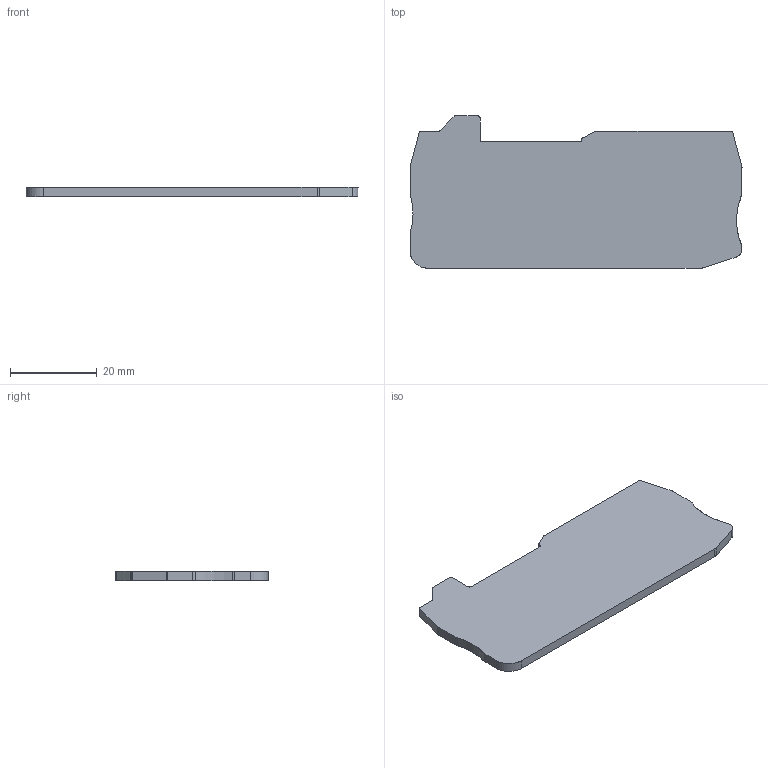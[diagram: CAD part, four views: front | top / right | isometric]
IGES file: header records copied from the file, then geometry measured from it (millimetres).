
Global section: file name: 3206296_d-qtcu_15-twin_select.igs; native system: OneSpace Designer 3D IGES; preprocessor: 12.01C  26-Mar-2004; date: 20041018.070353; units: millimetre
Bounding box: 76.4 x 35.05 x 2.2 mm (x, y, z)
Surface area: 5130.4 mm2 (no closed solid volume)
Topology: 0 solids, 0 shells, 38 faces, 304 edges, 304 vertices
Faces by surface type: bspline 38
